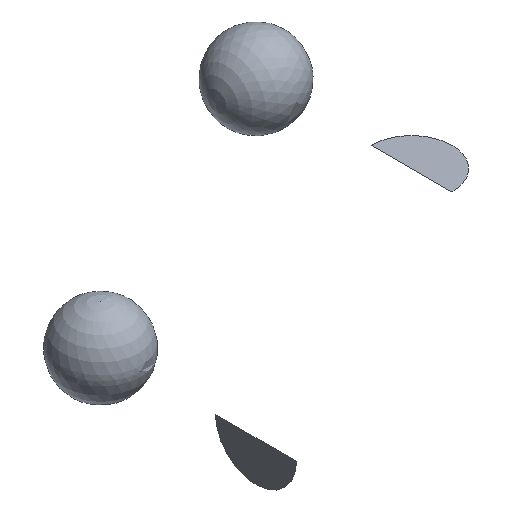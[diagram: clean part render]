
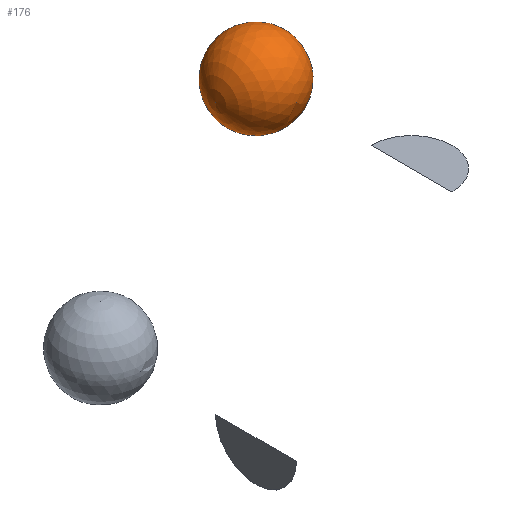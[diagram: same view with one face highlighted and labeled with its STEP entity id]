
A CAD part, isometric view. The second image highlights one B-rep face of the part: STEP entity #176.
In plain terms, the highlighted spherical face has radius 13000 mm.
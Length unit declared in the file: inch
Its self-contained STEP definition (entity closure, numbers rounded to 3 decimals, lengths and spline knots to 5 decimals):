
#6 = DIRECTION ( 'NONE',  ( 1., 0., 0. ) ) ;
#12 = CARTESIAN_POINT ( 'NONE',  ( 0., -511.81102, 1968.50394 ) ) ;
#77 = DIRECTION ( 'NONE',  ( 0., 0., 1. ) ) ;
#81 = EDGE_LOOP ( 'NONE', ( #150, #232 ) ) ;
#97 = FACE_OUTER_BOUND ( 'NONE', #81, .T. ) ;
#99 = DIRECTION ( 'NONE',  ( 0., 0., -1. ) ) ;
#103 = VERTEX_POINT ( 'NONE', #255 ) ;
#122 = DIRECTION ( 'NONE',  ( 0., 0., -1. ) ) ;
#135 = AXIS2_PLACEMENT_3D ( 'NONE', #174, #6, #99 ) ;
#145 = CARTESIAN_POINT ( 'NONE',  ( 0., 0., 1968.50394 ) ) ;
#150 = ORIENTED_EDGE ( 'NONE', *, *, #289, .F. ) ;
#164 = CIRCLE ( 'NONE', #135, 511.81102 ) ;
#174 = CARTESIAN_POINT ( 'NONE',  ( 0., 0., 1968.50394 ) ) ;
#176 = ADVANCED_FACE ( 'NONE', ( #97 ), #223, .F. ) ;
#180 = AXIS2_PLACEMENT_3D ( 'NONE', #145, #194, #122 ) ;
#189 = AXIS2_PLACEMENT_3D ( 'NONE', #260, #220, #77 ) ;
#191 = EDGE_CURVE ( 'NONE', #103, #224, #284, .T. ) ;
#194 = DIRECTION ( 'NONE',  ( 1., 0., 0. ) ) ;
#220 = DIRECTION ( 'NONE',  ( -1., 0., 0. ) ) ;
#223 = SPHERICAL_SURFACE ( 'NONE', #189, 511.81102 ) ;
#224 = VERTEX_POINT ( 'NONE', #12 ) ;
#232 = ORIENTED_EDGE ( 'NONE', *, *, #191, .T. ) ;
#255 = CARTESIAN_POINT ( 'NONE',  ( 0., 511.81102, 1968.50394 ) ) ;
#260 = CARTESIAN_POINT ( 'NONE',  ( 0., 0., 1968.50394 ) ) ;
#284 = CIRCLE ( 'NONE', #180, 511.81102 ) ;
#289 = EDGE_CURVE ( 'NONE', #103, #224, #164, .T. ) ;
